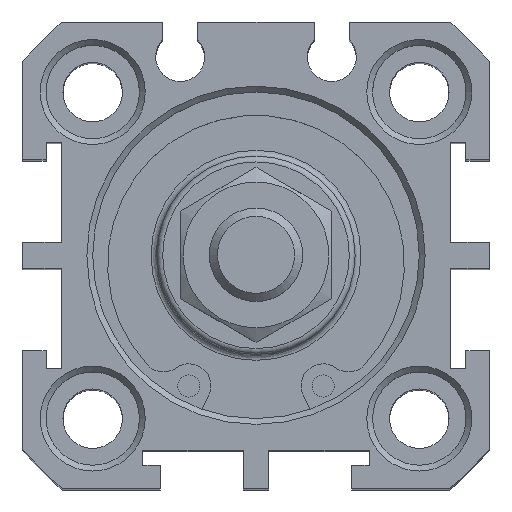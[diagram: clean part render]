
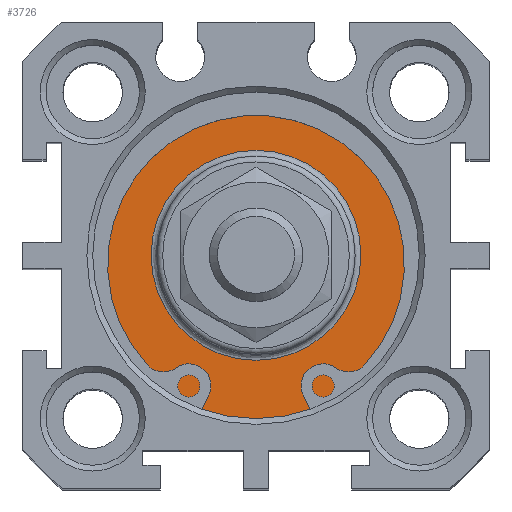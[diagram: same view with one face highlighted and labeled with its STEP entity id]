
A CAD part, top view. The second image highlights one B-rep face of the part: STEP entity #3726.
In plain terms, the highlighted planar face has unit normal (0, 0, 1).
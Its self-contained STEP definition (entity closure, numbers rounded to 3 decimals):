
#3675=CARTESIAN_POINT('',(0.12,10.914,68.3));
#3676=VERTEX_POINT('',#3675);
#3677=CARTESIAN_POINT('',(0.12,1.914,68.3));
#3678=DIRECTION('',(0.0,0.0,1.0));
#3679=DIRECTION('',(0.0,-1.0,0.0));
#3680=AXIS2_PLACEMENT_3D('',#3677,#3678,#3679);
#3681=CIRCLE('',#3680,9.);
#3682=EDGE_CURVE('',#3676,#3676,#3681,.T.);
#3707=CARTESIAN_POINT('',(0.12,13.164,68.3));
#3708=DIRECTION('',(0.0,0.0,1.0));
#3709=DIRECTION('',(1.0,0.0,0.0));
#3710=AXIS2_PLACEMENT_3D('',#3707,#3708,#3709);
#3711=PLANE('',#3710);
#3712=CARTESIAN_POINT('',(0.12,15.914,68.3));
#3713=VERTEX_POINT('',#3712);
#3714=CARTESIAN_POINT('',(0.12,1.914,68.3));
#3715=DIRECTION('',(0.0,0.0,-1.0));
#3716=DIRECTION('',(0.0,1.0,0.0));
#3717=AXIS2_PLACEMENT_3D('',#3714,#3715,#3716);
#3718=CIRCLE('',#3717,14.0);
#3719=EDGE_CURVE('',#3713,#3713,#3718,.T.);
#3720=ORIENTED_EDGE('',*,*,#3719,.F.);
#3721=EDGE_LOOP('',(#3720));
#3722=FACE_OUTER_BOUND('',#3721,.T.);
#3723=ORIENTED_EDGE('',*,*,#3682,.F.);
#3724=EDGE_LOOP('',(#3723));
#3725=FACE_BOUND('',#3724,.T.);
#3726=ADVANCED_FACE('',(#3722,#3725),#3711,.T.);
